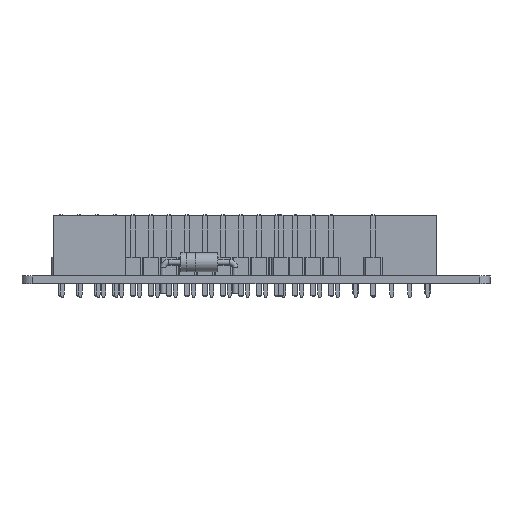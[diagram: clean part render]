
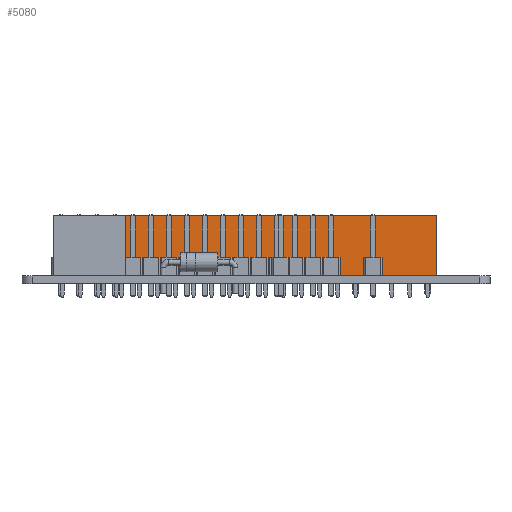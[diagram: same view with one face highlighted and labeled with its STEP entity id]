
A CAD part, front view. The second image highlights one B-rep face of the part: STEP entity #5080.
In plain terms, the highlighted planar face has unit normal (0, -1, 0) as drawn and (-1, 0, 0) by its records, which use the part's own axes.
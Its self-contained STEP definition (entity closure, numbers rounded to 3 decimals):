
#2957 = VERTEX_POINT('',#2958);
#2958 = CARTESIAN_POINT('',(-1.27,-46.99,0.));
#2966 = EDGE_CURVE('',#2957,#2967,#2969,.T.);
#2967 = VERTEX_POINT('',#2968);
#2968 = CARTESIAN_POINT('',(-1.27,-46.99,8.5));
#2969 = LINE('',#2970,#2971);
#2970 = CARTESIAN_POINT('',(-1.27,-46.99,0.));
#2971 = VECTOR('',#2972,1.);
#2972 = DIRECTION('',(0.,0.,1.));
#3029 = VERTEX_POINT('',#3030);
#3030 = CARTESIAN_POINT('',(-1.27,1.27,8.5));
#3036 = EDGE_CURVE('',#3037,#3029,#3039,.T.);
#3037 = VERTEX_POINT('',#3038);
#3038 = CARTESIAN_POINT('',(-1.27,1.27,0.));
#3039 = LINE('',#3040,#3041);
#3040 = CARTESIAN_POINT('',(-1.27,1.27,0.));
#3041 = VECTOR('',#3042,1.);
#3042 = DIRECTION('',(0.,0.,1.));
#3101 = EDGE_CURVE('',#3029,#2967,#3102,.T.);
#3102 = LINE('',#3103,#3104);
#3103 = CARTESIAN_POINT('',(-1.27,1.27,8.5));
#3104 = VECTOR('',#3105,1.);
#3105 = DIRECTION('',(0.,-1.,0.));
#3770 = EDGE_CURVE('',#3037,#2957,#3771,.T.);
#3771 = LINE('',#3772,#3773);
#3772 = CARTESIAN_POINT('',(-1.27,1.27,0.));
#3773 = VECTOR('',#3774,1.);
#3774 = DIRECTION('',(0.,-1.,0.));
#5080 = ADVANCED_FACE('',(#5081),#5087,.F.);
#5081 = FACE_BOUND('',#5082,.F.);
#5082 = EDGE_LOOP('',(#5083,#5084,#5085,#5086));
#5083 = ORIENTED_EDGE('',*,*,#3036,.T.);
#5084 = ORIENTED_EDGE('',*,*,#3101,.T.);
#5085 = ORIENTED_EDGE('',*,*,#2966,.F.);
#5086 = ORIENTED_EDGE('',*,*,#3770,.F.);
#5087 = PLANE('',#5088);
#5088 = AXIS2_PLACEMENT_3D('',#5089,#5090,#5091);
#5089 = CARTESIAN_POINT('',(-1.27,1.27,0.));
#5090 = DIRECTION('',(1.,0.,0.));
#5091 = DIRECTION('',(0.,-1.,0.));
